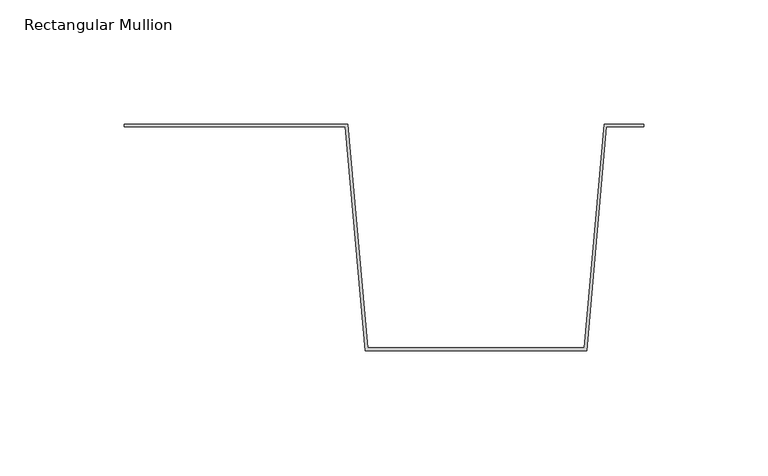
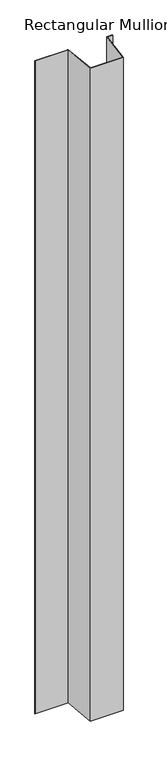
"""IFC4 building model written with IfcOpenShell, lengths in millimetres: member geometry, Rectangular Mullion : CD_NINELINE_Box Intermediate w Extension."""

from ifc_helpers import new_model, si_unit, frame, origin, place, context, project, spatial, polyline, outline, extrude, source, transform, mapped, element, save


def rectangular_mullion_3e9ea180(model_context):
    return source(origin(), model_context, "Body", "SweptSolid", [
        extrude(outline(polyline([(0.0, 0.0), (89.911879, 0.0), (97.911879, -90.0), (185.088121, -90.0), (193.088121, 0.0), (209.0, 0.0), (209.0, -1.0), (194.003175, -1.0), (186.0, -91.0357186), (97.0, -91.0357186), (88.996825, -1.0), (0.0, -1.0), (0.0, 0.0)])), frame((0.0, 0.0, -1860.0), z_axis=(0.0, 0.0, 1.0), x_axis=(1.0, 0.0, 0.0)), (0.0, 0.0, 1.0), 1860.0),
    ])


if __name__ == "__main__":
    model = new_model("IFC4")
    model_context = context("Model", 3, world=origin())
    ifc_project = project(units=[si_unit("LENGTHUNIT", "METRE", prefix="MILLI")], contexts=[model_context])
    site = spatial("IfcSite", under=ifc_project)
    building = spatial("IfcBuilding", under=site)
    placement = place(None, origin())
    rectangular_mullion_shape = rectangular_mullion_3e9ea180(model_context)
    element("IfcMember", 1, ObjectType="Rectangular Mullion : CD_NINELINE_Box Intermediate w Extension", at=placement, inside=building, context=model_context, shape_type="MappedRepresentation", body=[
        mapped(rectangular_mullion_shape, transform((0.0, 0.0, 0.0), x_axis=(1.0, 0.0, 0.0), y_axis=(0.0, 1.0, 0.0), z_axis=(0.0, 0.0, 1.0))),
    ])
    save(model, "model.ifc")
